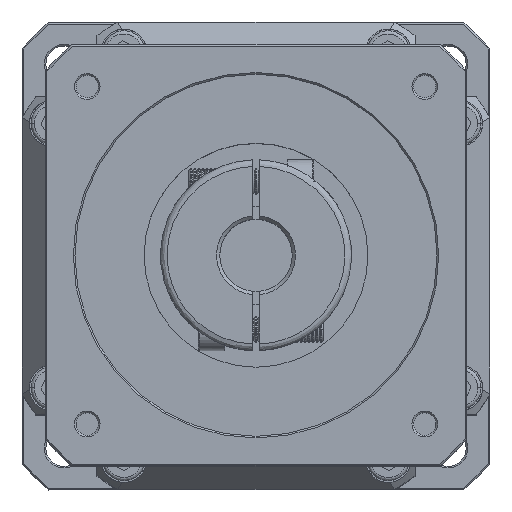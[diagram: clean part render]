
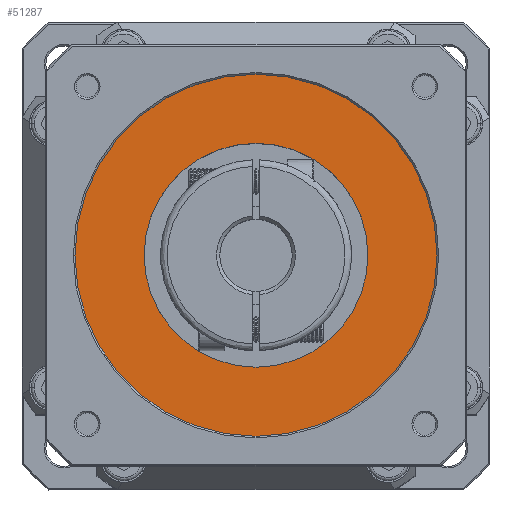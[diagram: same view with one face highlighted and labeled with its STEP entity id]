
A CAD part, top view. The second image highlights one B-rep face of the part: STEP entity #51287.
In plain terms, the highlighted planar face has unit normal (0, 0, -1).
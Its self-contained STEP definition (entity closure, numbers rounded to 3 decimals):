
#311 = AXIS2_PLACEMENT_3D ( 'NONE', #81579, #39759, #88618 ) ;
#2079 = DIRECTION ( 'NONE',  ( 0., 0., -1. ) ) ;
#2138 = AXIS2_PLACEMENT_3D ( 'NONE', #31608, #80432, #38609 ) ;
#3284 = ORIENTED_EDGE ( 'NONE', *, *, #65267, .T. ) ;
#5032 = DIRECTION ( 'NONE',  ( 0., 0., 1. ) ) ;
#9540 = CARTESIAN_POINT ( 'NONE',  ( 0., 0., 175.5 ) ) ;
#16513 = DIRECTION ( 'NONE',  ( 1., 0., 0. ) ) ;
#16992 = EDGE_LOOP ( 'NONE', ( #25125, #50976 ) ) ;
#17510 = VERTEX_POINT ( 'NONE', #40843 ) ;
#21401 = CARTESIAN_POINT ( 'NONE',  ( 55., 0., 175.5 ) ) ;
#25125 = ORIENTED_EDGE ( 'NONE', *, *, #67700, .T. ) ;
#29468 = VERTEX_POINT ( 'NONE', #53182 ) ;
#31608 = CARTESIAN_POINT ( 'NONE',  ( 0., 0., 175.5 ) ) ;
#32452 = FACE_BOUND ( 'NONE', #83492, .T. ) ;
#36658 = ORIENTED_EDGE ( 'NONE', *, *, #69115, .T. ) ;
#38609 = DIRECTION ( 'NONE',  ( -1., 0., 0. ) ) ;
#39759 = DIRECTION ( 'NONE',  ( 0., 0., 1. ) ) ;
#39818 = CIRCLE ( 'NONE', #76310, 55. ) ;
#40843 = CARTESIAN_POINT ( 'NONE',  ( 34., 0., 175.5 ) ) ;
#43786 = CARTESIAN_POINT ( 'NONE',  ( 0., 0., 175.5 ) ) ;
#46717 = CARTESIAN_POINT ( 'NONE',  ( 0., 0., 175.5 ) ) ;
#50842 = DIRECTION ( 'NONE',  ( 1., 0., 0. ) ) ;
#50976 = ORIENTED_EDGE ( 'NONE', *, *, #89933, .T. ) ;
#51287 = ADVANCED_FACE ( 'NONE', ( #32452, #85954 ), #67209, .F. ) ;
#53182 = CARTESIAN_POINT ( 'NONE',  ( -34., 0., 175.5 ) ) ;
#53748 = DIRECTION ( 'NONE',  ( -1., 0., 0. ) ) ;
#58269 = DIRECTION ( 'NONE',  ( 0., 0., -1. ) ) ;
#61904 = VERTEX_POINT ( 'NONE', #77978 ) ;
#63510 = CIRCLE ( 'NONE', #2138, 34. ) ;
#65267 = EDGE_CURVE ( 'NONE', #29468, #17510, #65413, .T. ) ;
#65413 = CIRCLE ( 'NONE', #67251, 34. ) ;
#67209 = PLANE ( 'NONE',  #311 ) ;
#67251 = AXIS2_PLACEMENT_3D ( 'NONE', #46717, #5032, #53748 ) ;
#67700 = EDGE_CURVE ( 'NONE', #78073, #61904, #80288, .T. ) ;
#69115 = EDGE_CURVE ( 'NONE', #17510, #29468, #63510, .T. ) ;
#73306 = AXIS2_PLACEMENT_3D ( 'NONE', #9540, #58269, #16513 ) ;
#76310 = AXIS2_PLACEMENT_3D ( 'NONE', #43786, #2079, #50842 ) ;
#77978 = CARTESIAN_POINT ( 'NONE',  ( -55., 0., 175.5 ) ) ;
#78073 = VERTEX_POINT ( 'NONE', #21401 ) ;
#80288 = CIRCLE ( 'NONE', #73306, 55. ) ;
#80432 = DIRECTION ( 'NONE',  ( 0., 0., 1. ) ) ;
#81579 = CARTESIAN_POINT ( 'NONE',  ( -55.66, -55.66, 175.5 ) ) ;
#83492 = EDGE_LOOP ( 'NONE', ( #3284, #36658 ) ) ;
#85954 = FACE_OUTER_BOUND ( 'NONE', #16992, .T. ) ;
#88618 = DIRECTION ( 'NONE',  ( 1., 0., 0. ) ) ;
#89933 = EDGE_CURVE ( 'NONE', #61904, #78073, #39818, .T. ) ;
